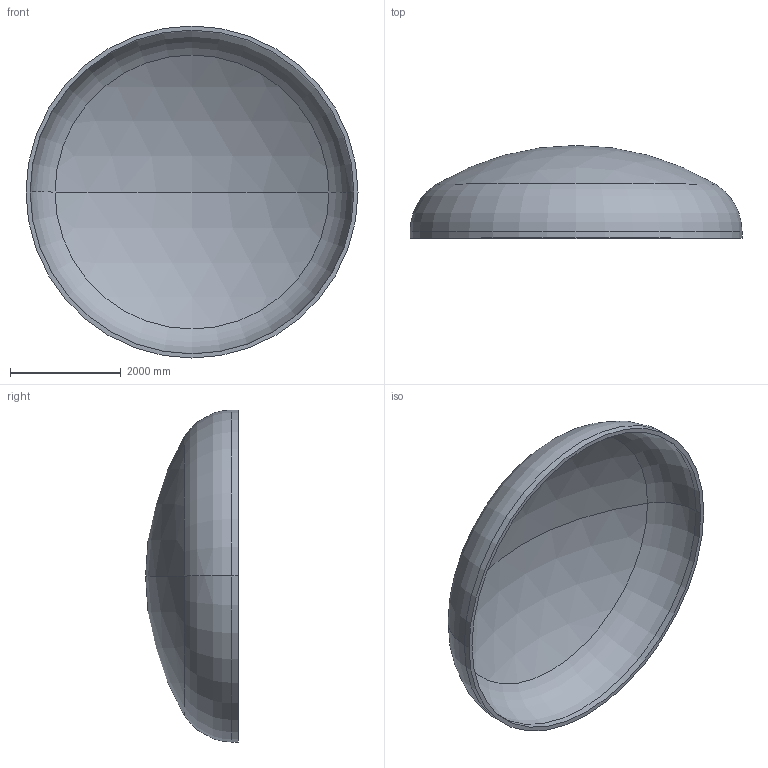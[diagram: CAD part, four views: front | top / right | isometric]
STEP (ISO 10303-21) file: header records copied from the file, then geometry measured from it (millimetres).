
FILE_DESCRIPTION (( 'STEP AP203' ), '1' );
FILE_NAME ('DIN 28013 Korbbogenform_-_Boden DIN 28013 - 6000 x 120 - I - s=76.step', '2016-07-04T10:38:07', ( '' ), ( '' ), 'SwSTEP 2.0', 'SolidWorks 2013', '' );
FILE_SCHEMA (( 'CONFIG_CONTROL_DESIGN' ));
Length unit declared in the file: millimetre
Products named in the file (1): DIN 28013 Korbbogenform_-_Boden DIN 28013 - 6000 x 120 - I - s=76
Bounding box: 6000 x 1676.42 x 6000 mm (x, y, z)
Volume: 3097061308.7 mm3; surface area: 82928100.4 mm2
Topology: 1 solids, 1 shells, 13 faces, 24 edges, 14 vertices
Faces by surface type: torus 4, cylinder 4, sphere 4, plane 1
Entity records: 407 total; most frequent: DIRECTION 72, CARTESIAN_POINT 52, ORIENTED_EDGE 48, AXIS2_PLACEMENT_3D 34, EDGE_CURVE 24, CIRCLE 20, EDGE_LOOP 14, VERTEX_POINT 14
